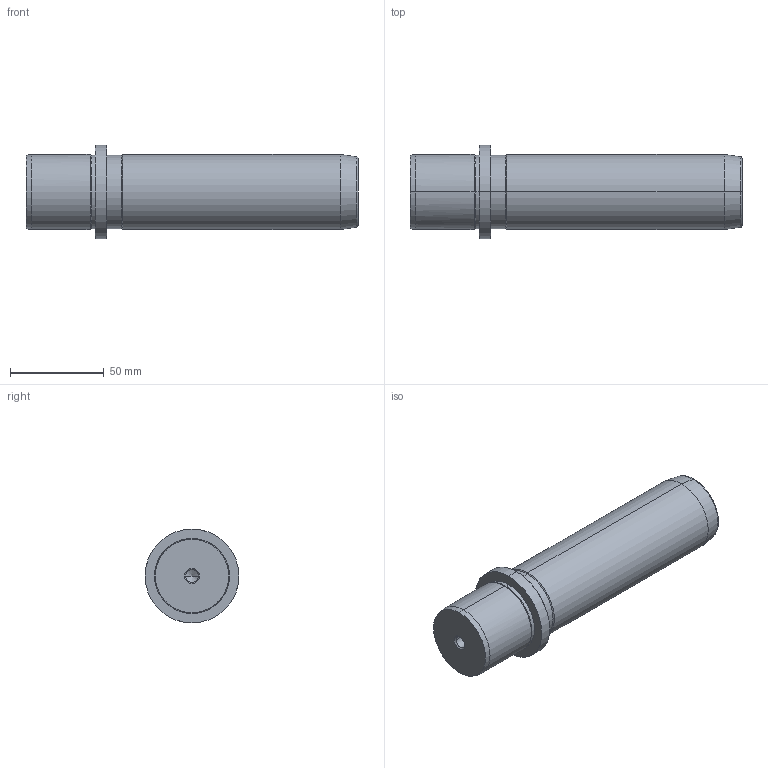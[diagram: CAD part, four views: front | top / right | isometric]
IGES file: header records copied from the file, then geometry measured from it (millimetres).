
Start section: START RECORD GO HERE.
Global section: file name: 718-40x140.igs; native system: DASSAULT SYSTEMES CATIA V5 R20 - www.3ds.com; preprocessor: CATIA Version 5 Release 20 ; author: Utente; organization: NB04-ASUS; date: 20210102.134835; units: millimetre
Bounding box: 177 x 50 x 50 mm (x, y, z)
Surface area: 27208.7 mm2 (no closed solid volume)
Topology: 0 solids, 0 shells, 36 faces, 196 edges, 192 vertices
Faces by surface type: revolution 32, plane 4
